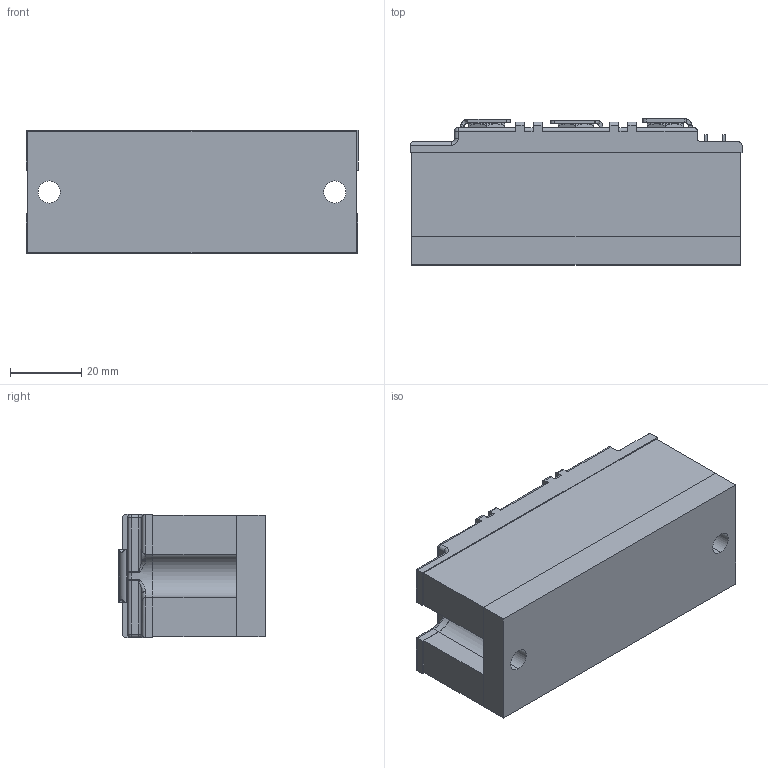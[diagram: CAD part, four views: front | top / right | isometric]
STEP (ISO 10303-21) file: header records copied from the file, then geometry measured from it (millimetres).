
FILE_DESCRIPTION (( 'STEP AP214' ), '1' );
FILE_NAME ('MTD2-TD.STEP', '2021-02-17T10:45:04', ( '' ), ( '' ), 'SwSTEP 2.0', 'SolidWorks 2018', '' );
FILE_SCHEMA (( 'AUTOMOTIVE_DESIGN' ));
Length unit declared in the file: millimetre
Products named in the file (1): MTD2-TD
Bounding box: 93 x 40.97 x 34.6 mm (x, y, z)
Volume: 57509.4 mm3; surface area: 51886.9 mm2
Topology: 11 solids, 11 shells, 644 faces, 1696 edges, 1073 vertices
Faces by surface type: plane 429, cylinder 171, cone 18, bspline 10, torus 9, sphere 7
Entity records: 27872 total; most frequent: CARTESIAN_POINT 4577, ORIENTED_EDGE 3378, DIRECTION 3254, EDGE_CURVE 1689, VECTOR 1226, LINE 1226, VERTEX_POINT 1073, AXIS2_PLACEMENT_3D 1014
